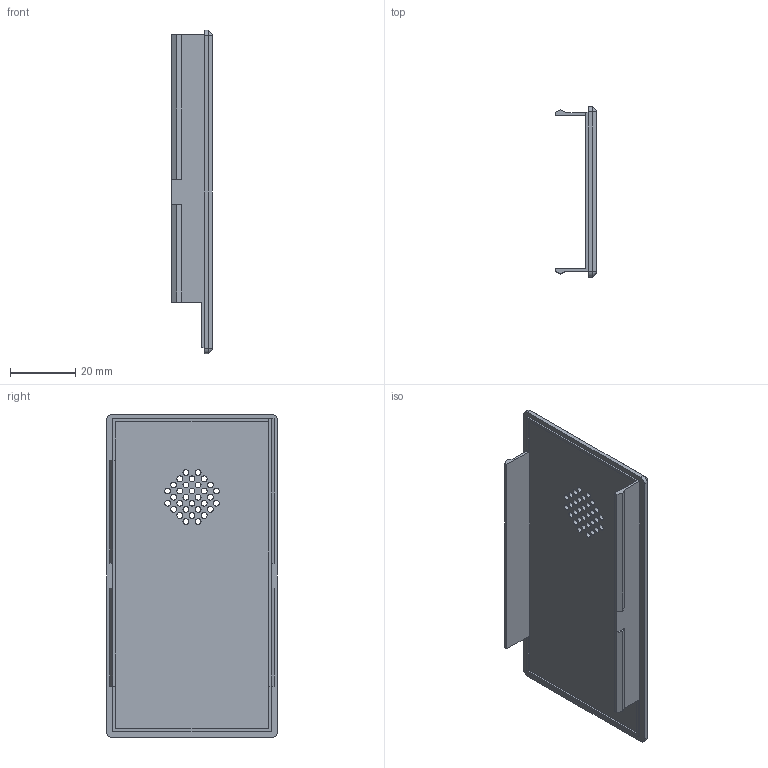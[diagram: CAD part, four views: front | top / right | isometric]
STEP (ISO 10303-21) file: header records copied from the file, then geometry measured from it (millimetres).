
FILE_DESCRIPTION (( 'STEP AP214' ), '1' );
FILE_NAME ('electronics cover.STEP', '2021-06-11T04:51:49', ( '' ), ( '' ), 'SwSTEP 2.0', 'SolidWorks 2016', '' );
FILE_SCHEMA (( 'AUTOMOTIVE_DESIGN' ));
Length unit declared in the file: inch
Products named in the file (1): electronics cover
Bounding box: 12.53 x 52.28 x 99.11 mm (x, y, z)
Volume: 14306.3 mm3; surface area: 14522.6 mm2
Topology: 1 solids, 1 shells, 110 faces, 309 edges, 202 vertices
Faces by surface type: cylinder 68, plane 38, cone 4
Entity records: 3765 total; most frequent: DIRECTION 671, CARTESIAN_POINT 622, ORIENTED_EDGE 618, EDGE_CURVE 309, AXIS2_PLACEMENT_3D 251, VERTEX_POINT 202, EDGE_LOOP 175, VECTOR 169
